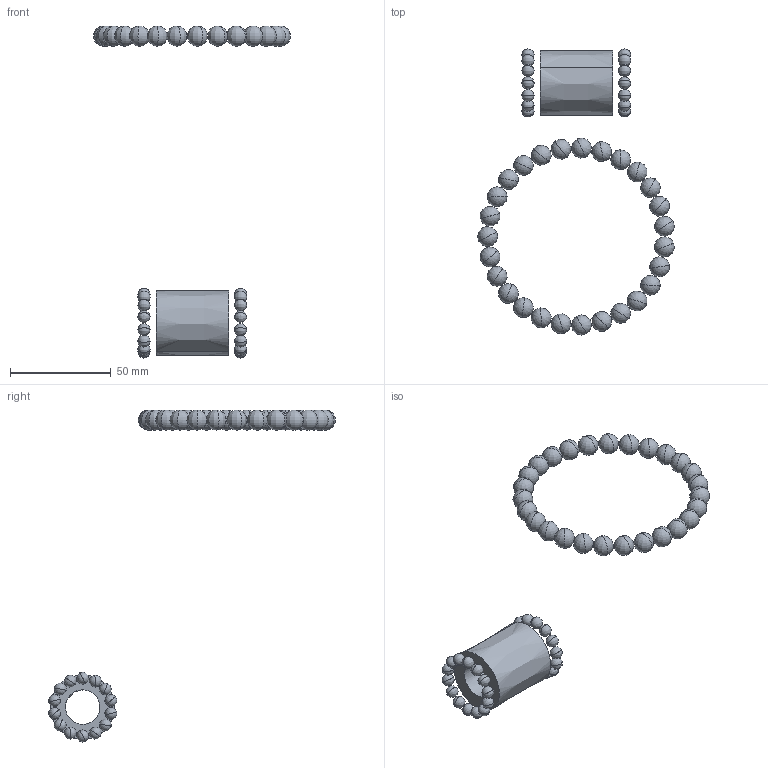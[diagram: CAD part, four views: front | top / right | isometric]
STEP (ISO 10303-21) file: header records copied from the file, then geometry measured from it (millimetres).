
FILE_DESCRIPTION (( 'STEP AP214' ), '1' );
FILE_NAME ('KTU-200WJ-GS-90.STEP', '2018-08-30T08:02:27', ( '' ), ( '' ), 'SwSTEP 2.0', 'SolidWorks 2010', '' );
FILE_SCHEMA (( 'AUTOMOTIVE_DESIGN' ));
Length unit declared in the file: millimetre
Products named in the file (1): KTU-200WJ-GS-90
Bounding box: 97.68 x 142.33 x 164.82 mm (x, y, z)
Volume: 37911.3 mm3; surface area: 18353.5 mm2
Topology: 56 solids, 56 shells, 116 faces, 406 edges, 182 vertices
Faces by surface type: bspline 114, plane 2
Entity records: 97285 total; most frequent: CARTESIAN_POINT 94505, ORIENTED_EDGE 372, EDGE_CURVE 186, VERTEX_POINT 182, B_SPLINE_CURVE_WITH_KNOTS 182, EDGE_LOOP 118, FACE_OUTER_BOUND 116, ADVANCED_FACE 116
